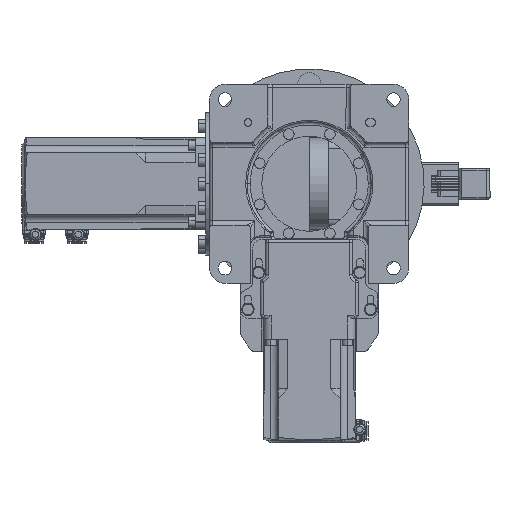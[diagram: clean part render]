
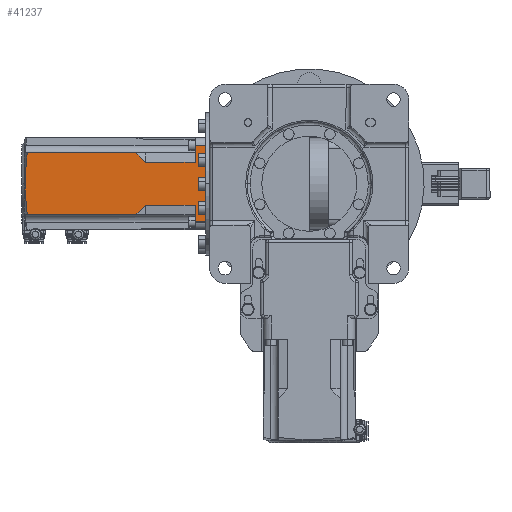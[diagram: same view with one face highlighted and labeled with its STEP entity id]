
A CAD part, front view. The second image highlights one B-rep face of the part: STEP entity #41237.
In plain terms, the highlighted planar face has unit normal (0, -1, 0).
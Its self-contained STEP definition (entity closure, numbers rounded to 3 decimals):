
#1113 = ORIENTED_EDGE ( 'NONE', *, *, #50568, .F. ) ;
#1682 = CARTESIAN_POINT ( 'NONE',  ( -105.711, 105., 81.555 ) ) ;
#1742 = EDGE_CURVE ( 'NONE', #58243, #43495, #52841, .T. ) ;
#3090 = ORIENTED_EDGE ( 'NONE', *, *, #16598, .T. ) ;
#3931 = VECTOR ( 'NONE', #14384, 1000. ) ;
#4393 = EDGE_CURVE ( 'NONE', #14474, #33906, #57495, .T. ) ;
#5086 = CARTESIAN_POINT ( 'NONE',  ( -113.2, 105., 74.3 ) ) ;
#5899 = VECTOR ( 'NONE', #24174, 1000. ) ;
#6222 = VERTEX_POINT ( 'NONE', #37098 ) ;
#6914 = VERTEX_POINT ( 'NONE', #22417 ) ;
#7174 = VECTOR ( 'NONE', #57461, 1000. ) ;
#7402 = ORIENTED_EDGE ( 'NONE', *, *, #1742, .T. ) ;
#7780 = LINE ( 'NONE', #32514, #37598 ) ;
#8464 = LINE ( 'NONE', #13220, #36873 ) ;
#8985 = ORIENTED_EDGE ( 'NONE', *, *, #10246, .F. ) ;
#9890 = CARTESIAN_POINT ( 'NONE',  ( -82.5, 105., 119.2 ) ) ;
#10246 = EDGE_CURVE ( 'NONE', #6914, #41887, #58370, .T. ) ;
#11727 = DIRECTION ( 'NONE',  ( 1., 0., 0. ) ) ;
#13079 = DIRECTION ( 'NONE',  ( 0., 0., 1. ) ) ;
#13220 = CARTESIAN_POINT ( 'NONE',  ( -74.5, 105., 80.5 ) ) ;
#13560 = DIRECTION ( 'NONE',  ( -0.718, 0., 0.696 ) ) ;
#14192 = VECTOR ( 'NONE', #49543, 1000. ) ;
#14384 = DIRECTION ( 'NONE',  ( 1., 0., 0. ) ) ;
#14474 = VERTEX_POINT ( 'NONE', #22028 ) ;
#15124 = DIRECTION ( 'NONE',  ( 0., -1., 0. ) ) ;
#15761 = DIRECTION ( 'NONE',  ( 1., 0., 0. ) ) ;
#16598 = EDGE_CURVE ( 'NONE', #14474, #57819, #21899, .T. ) ;
#17215 = EDGE_CURVE ( 'NONE', #43495, #55023, #60771, .T. ) ;
#18028 = CIRCLE ( 'NONE', #21064, 146.969 ) ;
#18317 = DIRECTION ( 'NONE',  ( 0., 0., 1. ) ) ;
#19102 = FACE_OUTER_BOUND ( 'NONE', #49001, .T. ) ;
#19330 = VERTEX_POINT ( 'NONE', #33033 ) ;
#19580 = ORIENTED_EDGE ( 'NONE', *, *, #21559, .F. ) ;
#20796 = CARTESIAN_POINT ( 'NONE',  ( -184.071, 105., 74.3 ) ) ;
#21064 = AXIS2_PLACEMENT_3D ( 'NONE', #39208, #15124, #15761 ) ;
#21559 = EDGE_CURVE ( 'NONE', #33906, #51582, #7780, .T. ) ;
#21899 = LINE ( 'NONE', #55125, #35893 ) ;
#22028 = CARTESIAN_POINT ( 'NONE',  ( -106.8, 105., 80.5 ) ) ;
#22417 = CARTESIAN_POINT ( 'NONE',  ( -74.5, 105., 119.2 ) ) ;
#22913 = ORIENTED_EDGE ( 'NONE', *, *, #4393, .F. ) ;
#24174 = DIRECTION ( 'NONE',  ( 1., 0., 0. ) ) ;
#24942 = DIRECTION ( 'NONE',  ( -1., 0., 0. ) ) ;
#26962 = LINE ( 'NONE', #51945, #38881 ) ;
#28297 = PLANE ( 'NONE',  #37423 ) ;
#29018 = VECTOR ( 'NONE', #13560, 1000. ) ;
#29354 = VECTOR ( 'NONE', #13079, 1000. ) ;
#29933 = VECTOR ( 'NONE', #24942, 1000. ) ;
#31940 = CARTESIAN_POINT ( 'NONE',  ( -92.941, 105., 114.7 ) ) ;
#31953 = EDGE_CURVE ( 'NONE', #6222, #57819, #8464, .T. ) ;
#32427 = DIRECTION ( 'NONE',  ( 0., 1., 0. ) ) ;
#32514 = CARTESIAN_POINT ( 'NONE',  ( -92.941, 105., 74.3 ) ) ;
#33033 = CARTESIAN_POINT ( 'NONE',  ( -74.5, 105., 108.5 ) ) ;
#33042 = LINE ( 'NONE', #42556, #29354 ) ;
#33534 = CARTESIAN_POINT ( 'NONE',  ( -105.711, 105., 107.446 ) ) ;
#33906 = VERTEX_POINT ( 'NONE', #5086 ) ;
#35893 = VECTOR ( 'NONE', #11727, 1000. ) ;
#36472 = VERTEX_POINT ( 'NONE', #43149 ) ;
#36873 = VECTOR ( 'NONE', #18317, 1000. ) ;
#37098 = CARTESIAN_POINT ( 'NONE',  ( -74.5, 105., 69.8 ) ) ;
#37423 = AXIS2_PLACEMENT_3D ( 'NONE', #47609, #32427, #38096 ) ;
#37598 = VECTOR ( 'NONE', #51492, 1000. ) ;
#37601 = ORIENTED_EDGE ( 'NONE', *, *, #17215, .T. ) ;
#38096 = DIRECTION ( 'NONE',  ( -1., 0., 0. ) ) ;
#38881 = VECTOR ( 'NONE', #61780, 1000. ) ;
#39208 = CARTESIAN_POINT ( 'NONE',  ( -38.496, 105., 94.5 ) ) ;
#41237 = ADVANCED_FACE ( 'NONE', ( #19102 ), #28297, .F. ) ;
#41258 = EDGE_CURVE ( 'NONE', #36472, #41887, #33042, .T. ) ;
#41887 = VERTEX_POINT ( 'NONE', #47603 ) ;
#42556 = CARTESIAN_POINT ( 'NONE',  ( -67.5, 105., 64.5 ) ) ;
#42805 = CARTESIAN_POINT ( 'NONE',  ( -113.2, 105., 114.7 ) ) ;
#43149 = CARTESIAN_POINT ( 'NONE',  ( -67.5, 105., 69.8 ) ) ;
#43495 = VERTEX_POINT ( 'NONE', #42805 ) ;
#43510 = ORIENTED_EDGE ( 'NONE', *, *, #62065, .T. ) ;
#43564 = ORIENTED_EDGE ( 'NONE', *, *, #55102, .F. ) ;
#45024 = CARTESIAN_POINT ( 'NONE',  ( -184.071, 105., 114.7 ) ) ;
#45066 = EDGE_CURVE ( 'NONE', #55023, #51582, #18028, .T. ) ;
#47603 = CARTESIAN_POINT ( 'NONE',  ( -67.5, 105., 119.2 ) ) ;
#47609 = CARTESIAN_POINT ( 'NONE',  ( -77.8, 105., 64.5 ) ) ;
#47661 = LINE ( 'NONE', #62539, #3931 ) ;
#49001 = EDGE_LOOP ( 'NONE', ( #8985, #43564, #1113, #7402, #37601, #60524, #19580, #22913, #3090, #55550, #43510, #57281 ) ) ;
#49543 = DIRECTION ( 'NONE',  ( -0.718, 0., -0.696 ) ) ;
#50568 = EDGE_CURVE ( 'NONE', #58243, #19330, #61594, .T. ) ;
#50914 = CARTESIAN_POINT ( 'NONE',  ( -74.5, 105., 80.5 ) ) ;
#51450 = CARTESIAN_POINT ( 'NONE',  ( -126.3, 105., 108.5 ) ) ;
#51492 = DIRECTION ( 'NONE',  ( -1., 0., 0. ) ) ;
#51582 = VERTEX_POINT ( 'NONE', #20796 ) ;
#51945 = CARTESIAN_POINT ( 'NONE',  ( -74.5, 105., 108.5 ) ) ;
#52841 = LINE ( 'NONE', #33534, #29018 ) ;
#55023 = VERTEX_POINT ( 'NONE', #45024 ) ;
#55102 = EDGE_CURVE ( 'NONE', #19330, #6914, #26962, .T. ) ;
#55125 = CARTESIAN_POINT ( 'NONE',  ( -126.3, 105., 80.5 ) ) ;
#55550 = ORIENTED_EDGE ( 'NONE', *, *, #31953, .F. ) ;
#57281 = ORIENTED_EDGE ( 'NONE', *, *, #41258, .T. ) ;
#57461 = DIRECTION ( 'NONE',  ( 1., 0., 0. ) ) ;
#57495 = LINE ( 'NONE', #1682, #14192 ) ;
#57819 = VERTEX_POINT ( 'NONE', #50914 ) ;
#58243 = VERTEX_POINT ( 'NONE', #61210 ) ;
#58370 = LINE ( 'NONE', #9890, #5899 ) ;
#60524 = ORIENTED_EDGE ( 'NONE', *, *, #45066, .T. ) ;
#60771 = LINE ( 'NONE', #31940, #29933 ) ;
#61210 = CARTESIAN_POINT ( 'NONE',  ( -106.8, 105., 108.5 ) ) ;
#61594 = LINE ( 'NONE', #51450, #7174 ) ;
#61780 = DIRECTION ( 'NONE',  ( 0., 0., 1. ) ) ;
#62065 = EDGE_CURVE ( 'NONE', #6222, #36472, #47661, .T. ) ;
#62539 = CARTESIAN_POINT ( 'NONE',  ( -82.5, 105., 69.8 ) ) ;
